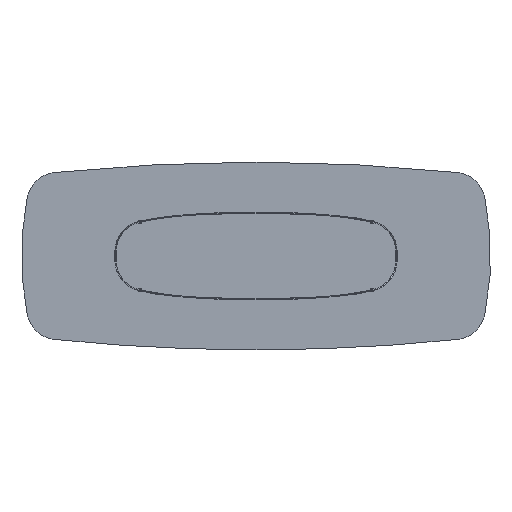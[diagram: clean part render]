
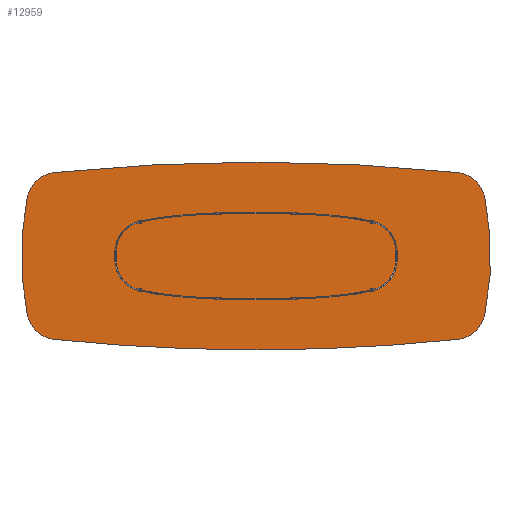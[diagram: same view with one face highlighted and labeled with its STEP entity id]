
A CAD part, front view. The second image highlights one B-rep face of the part: STEP entity #12959.
In plain terms, the highlighted planar face has unit normal (0, -1, 0).
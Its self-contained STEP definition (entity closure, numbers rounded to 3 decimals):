
#149 = CIRCLE ( 'NONE', #3934, 200. ) ;
#183 = VERTEX_POINT ( 'NONE', #3323 ) ;
#524 = EDGE_CURVE ( 'NONE', #16386, #11712, #15424, .T. ) ;
#629 = CARTESIAN_POINT ( 'NONE',  ( -200., 0., 5950. ) ) ;
#706 = DIRECTION ( 'NONE',  ( 0., 1., 0. ) ) ;
#835 = DIRECTION ( 'NONE',  ( 0., 1., 0. ) ) ;
#982 = ORIENTED_EDGE ( 'NONE', *, *, #10748, .F. ) ;
#1066 = AXIS2_PLACEMENT_3D ( 'NONE', #629, #706, #11167 ) ;
#1155 = VERTEX_POINT ( 'NONE', #8264 ) ;
#1247 = CARTESIAN_POINT ( 'NONE',  ( -1287.344, 0., -533.533 ) ) ;
#1255 = AXIS2_PLACEMENT_3D ( 'NONE', #8183, #9653, #1701 ) ;
#1569 = EDGE_CURVE ( 'NONE', #7422, #11059, #16792, .T. ) ;
#1628 = AXIS2_PLACEMENT_3D ( 'NONE', #1917, #6059, #15879 ) ;
#1644 = CIRCLE ( 'NONE', #16066, 12500. ) ;
#1701 = DIRECTION ( 'NONE',  ( 0., 0., 1. ) ) ;
#1865 = VERTEX_POINT ( 'NONE', #7566 ) ;
#1917 = CARTESIAN_POINT ( 'NONE',  ( 0., 0., 11900. ) ) ;
#2017 = ORIENTED_EDGE ( 'NONE', *, *, #524, .F. ) ;
#2100 = CARTESIAN_POINT ( 'NONE',  ( 1462.835, 0., 373.961 ) ) ;
#2202 = ORIENTED_EDGE ( 'NONE', *, *, #4624, .F. ) ;
#2656 = CARTESIAN_POINT ( 'NONE',  ( -1266.747, 0., 334.597 ) ) ;
#2908 = DIRECTION ( 'NONE',  ( 0., -1., 0. ) ) ;
#3309 = ORIENTED_EDGE ( 'NONE', *, *, #5500, .T. ) ;
#3323 = CARTESIAN_POINT ( 'NONE',  ( 0., 0., -600. ) ) ;
#3512 = VERTEX_POINT ( 'NONE', #7476 ) ;
#3934 = AXIS2_PLACEMENT_3D ( 'NONE', #16077, #5526, #5695 ) ;
#4012 = EDGE_CURVE ( 'NONE', #1865, #11712, #149, .T. ) ;
#4184 = AXIS2_PLACEMENT_3D ( 'NONE', #10050, #12692, #13975 ) ;
#4465 = CARTESIAN_POINT ( 'NONE',  ( 0., 0., -11900. ) ) ;
#4624 = EDGE_CURVE ( 'NONE', #183, #9026, #12279, .T. ) ;
#4639 = DIRECTION ( 'NONE',  ( 0., -1., 0. ) ) ;
#4824 = CARTESIAN_POINT ( 'NONE',  ( -400., 0., 0. ) ) ;
#5453 = DIRECTION ( 'NONE',  ( 0., 0., 1. ) ) ;
#5500 = EDGE_CURVE ( 'NONE', #7422, #9026, #6976, .T. ) ;
#5526 = DIRECTION ( 'NONE',  ( 0., -1., 0. ) ) ;
#5695 = DIRECTION ( 'NONE',  ( 0., 0., 1. ) ) ;
#5955 = ORIENTED_EDGE ( 'NONE', *, *, #14687, .F. ) ;
#6059 = DIRECTION ( 'NONE',  ( 0., 1., 0. ) ) ;
#6103 = ORIENTED_EDGE ( 'NONE', *, *, #14008, .T. ) ;
#6782 = CIRCLE ( 'NONE', #12823, 200. ) ;
#6976 = CIRCLE ( 'NONE', #1255, 200. ) ;
#7422 = VERTEX_POINT ( 'NONE', #11267 ) ;
#7476 = CARTESIAN_POINT ( 'NONE',  ( 1287.344, 0., 533.533 ) ) ;
#7566 = CARTESIAN_POINT ( 'NONE',  ( 1287.344, 0., -533.533 ) ) ;
#7958 = ORIENTED_EDGE ( 'NONE', *, *, #4012, .T. ) ;
#8183 = CARTESIAN_POINT ( 'NONE',  ( -1266.747, 0., -334.597 ) ) ;
#8264 = CARTESIAN_POINT ( 'NONE',  ( -1287.344, 0., 533.533 ) ) ;
#8400 = CIRCLE ( 'NONE', #12779, 12500. ) ;
#9026 = VERTEX_POINT ( 'NONE', #1247 ) ;
#9526 = AXIS2_PLACEMENT_3D ( 'NONE', #2656, #2908, #5453 ) ;
#9653 = DIRECTION ( 'NONE',  ( 0., -1., 0. ) ) ;
#9784 = PLANE ( 'NONE',  #1066 ) ;
#9954 = FACE_OUTER_BOUND ( 'NONE', #12882, .T. ) ;
#10050 = CARTESIAN_POINT ( 'NONE',  ( 400., 0., 0. ) ) ;
#10618 = CIRCLE ( 'NONE', #9526, 200. ) ;
#10748 = EDGE_CURVE ( 'NONE', #1155, #3512, #8400, .T. ) ;
#11059 = VERTEX_POINT ( 'NONE', #13374 ) ;
#11167 = DIRECTION ( 'NONE',  ( 0., 0., 1. ) ) ;
#11267 = CARTESIAN_POINT ( 'NONE',  ( -1462.835, 0., -373.961 ) ) ;
#11460 = DIRECTION ( 'NONE',  ( 0., 0., 1. ) ) ;
#11712 = VERTEX_POINT ( 'NONE', #11763 ) ;
#11763 = CARTESIAN_POINT ( 'NONE',  ( 1462.835, 0., -373.961 ) ) ;
#12154 = AXIS2_PLACEMENT_3D ( 'NONE', #4824, #835, #11460 ) ;
#12279 = CIRCLE ( 'NONE', #1628, 12500. ) ;
#12692 = DIRECTION ( 'NONE',  ( 0., 1., 0. ) ) ;
#12779 = AXIS2_PLACEMENT_3D ( 'NONE', #4465, #15021, #13571 ) ;
#12823 = AXIS2_PLACEMENT_3D ( 'NONE', #16630, #4639, #15191 ) ;
#12882 = EDGE_LOOP ( 'NONE', ( #982, #6103, #16210, #3309, #2202, #5955, #7958, #2017, #14272 ) ) ;
#12959 = ADVANCED_FACE ( 'NONE', ( #9954 ), #9784, .F. ) ;
#13083 = DIRECTION ( 'NONE',  ( 0., 1., 0. ) ) ;
#13374 = CARTESIAN_POINT ( 'NONE',  ( -1462.835, 0., 373.961 ) ) ;
#13438 = EDGE_CURVE ( 'NONE', #16386, #3512, #6782, .T. ) ;
#13571 = DIRECTION ( 'NONE',  ( 0., 0., 1. ) ) ;
#13975 = DIRECTION ( 'NONE',  ( 0., 0., 1. ) ) ;
#14008 = EDGE_CURVE ( 'NONE', #1155, #11059, #10618, .T. ) ;
#14272 = ORIENTED_EDGE ( 'NONE', *, *, #13438, .T. ) ;
#14363 = DIRECTION ( 'NONE',  ( 0., 0., 1. ) ) ;
#14687 = EDGE_CURVE ( 'NONE', #1865, #183, #1644, .T. ) ;
#14697 = CARTESIAN_POINT ( 'NONE',  ( 0., 0., 11900. ) ) ;
#15021 = DIRECTION ( 'NONE',  ( 0., 1., 0. ) ) ;
#15191 = DIRECTION ( 'NONE',  ( 0., 0., 1. ) ) ;
#15424 = CIRCLE ( 'NONE', #12154, 1900. ) ;
#15879 = DIRECTION ( 'NONE',  ( 0., 0., 1. ) ) ;
#16066 = AXIS2_PLACEMENT_3D ( 'NONE', #14697, #13083, #14363 ) ;
#16077 = CARTESIAN_POINT ( 'NONE',  ( 1266.747, 0., -334.597 ) ) ;
#16210 = ORIENTED_EDGE ( 'NONE', *, *, #1569, .F. ) ;
#16386 = VERTEX_POINT ( 'NONE', #2100 ) ;
#16630 = CARTESIAN_POINT ( 'NONE',  ( 1266.747, 0., 334.597 ) ) ;
#16792 = CIRCLE ( 'NONE', #4184, 1900. ) ;
